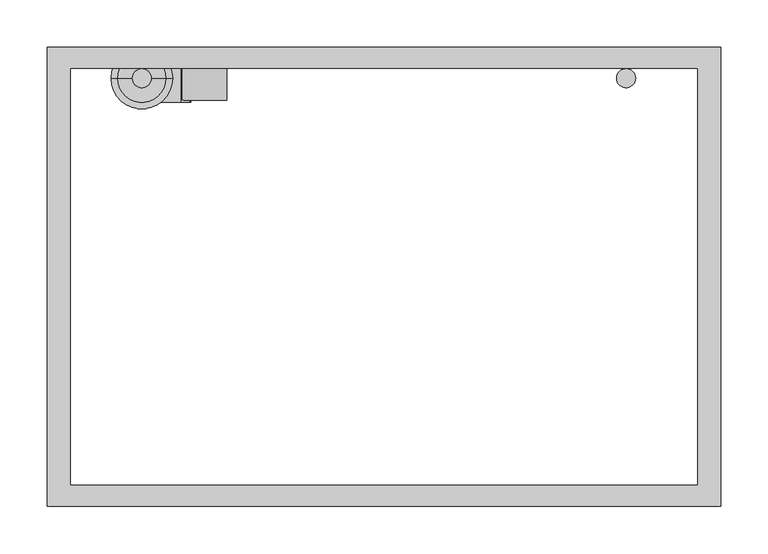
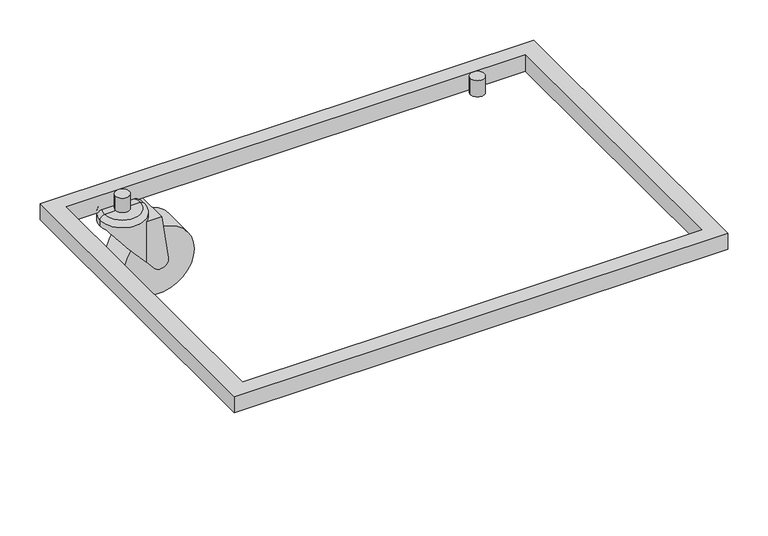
"""IFC4 building model written with IfcOpenShell, lengths in millimetres: furniture geometry, BK Library - Smaaland - Book Trolley : BK Library - Smaaland - Book Trolley."""

from ifc_helpers import new_model, si_unit, point, frame, frame_2d, origin, place, context, project, spatial, polyline, circle_curve, ellipse_curve, trimmed, segment, composite_curve, outline, extrude, source, transform, mapped, element, save
from ifc_brep_helpers import plane_surface, cylinder_surface, revolved_surface, advanced_brep


def furniture_c6fde251(model_context):
    return source(origin(), model_context, "Body", "SolidModel", [
        extrude(outline(composite_curve([segment(trimmed(circle_curve(frame_2d((49.3999998, -216.0856892)), 50.0), [point((49.3999998, -266.0856892))], [point((49.3999998, -166.0856892))], False, "CARTESIAN"), True, "CONTINUOUS"), segment(trimmed(circle_curve(frame_2d((49.3999998, -216.0856892)), 50.0), [point((49.3999998, -166.0856892))], [point((49.3999998, -266.0856892))], False, "CARTESIAN"), True, "CONTINUOUS")], self_intersect=False)), frame((0.0, 186.7499229, 0.0), z_axis=(0.0, 1.0, 0.0), x_axis=(0.0, 0.0, 1.0)), (0.0, 0.0, 1.0), 46.2857127),
        extrude(outline(composite_curve([segment(trimmed(circle_curve(frame_2d((255.996947, 209.9854769)), 10.0), [point((245.996947, 209.9854769))], [point((265.996947, 209.9854769))], False, "CARTESIAN"), True, "CONTINUOUS"), segment(trimmed(circle_curve(frame_2d((255.996947, 209.9854769)), 10.0), [point((265.996947, 209.9854769))], [point((245.996947, 209.9854769))], False, "CARTESIAN"), True, "CONTINUOUS")], self_intersect=False)), frame((0.0, 0.0, 126.1999998), z_axis=(0.0, 0.0, 1.0), x_axis=(1.0, 0.0, 0.0)), (0.0, 0.0, 1.0), 24.8998986),
        advanced_brep(
        [(-225.0193298, 184.391429, 41.8401668), (-204.6504597, 184.391429, 51.0748876), (-214.1674795, 184.391429, 116.3900038), (-235.9880793, 184.391429, 116.3900038), (-235.9880793, 184.391429, 54.6890773), (-214.1674795, 235.3330703, 116.3900038), (-204.6504597, 235.3330703, 51.0748876), (-225.0193298, 235.3330703, 41.8401668), (-235.8706963, 235.3330703, 54.5515736), (-235.8706963, 235.3330703, 116.3900038), (-223.6101389, 209.9087309, 116.3900038), (-225.0193298, 186.7499229, 41.8401668), (-285.8899558, 196.935471, 113.1446696), (-285.8899558, 222.8819908, 113.1446696), (-225.0193298, 232.9745764, 41.8401668), (-233.218088, 232.9745764, 51.4442799), (-227.2821321, 224.9130887, 44.4908375), (-227.2821321, 209.9087309, 44.4908375), (-227.2821321, 194.9043731, 44.4908375), (-233.312175, 186.7499229, 51.5544945), (-204.6504597, 186.7499229, 51.0748876), (-204.6504597, 232.9745764, 51.0748876), (-213.8046628, 186.7499229, 113.8999998), (-213.8046628, 232.9745764, 113.8999998), (-233.312175, 186.7499229, 113.8999998), (-223.6101389, 209.9087309, 113.8999998), (-233.218088, 232.9745764, 113.8999998), (-288.5923637, 209.9087309, 121.6226045), (-223.6101389, 209.9087309, 121.6226045), (-288.5923637, 209.9087309, 113.1446696), (-223.6101389, 209.9087309, 44.4908375), (-230.6101389, 209.9087309, 128.6226045), (-281.5923637, 209.9087309, 128.6226045), (-256.1012513, 209.9087309, 128.6226045)],
        [
            (0, 1, circle_curve(frame((-216.167464, 184.391429, 49.3967529), z_axis=(0.0, -1.0, 0.0), x_axis=(1.0, 0.0, 0.0)), 11.6386221)),
            (1, 2),
            (2, 3),
            (3, 4),
            (4, 0),
            (5, 6),
            (6, 7, circle_curve(frame((-216.167464, 235.3330703, 49.3967529), z_axis=(0.0, 1.0, 0.0), x_axis=(1.0, 0.0, 0.0)), 11.6386221)),
            (7, 8),
            (8, 9),
            (9, 5),
            (2, 5),
            (9, 10, circle_curve(frame((-256.1012513, 209.9087309, 116.3900038), z_axis=(0.0, 0.0, -1.0), x_axis=(-1.0, 0.0, 0.0)), 32.4911124)),
            (10, 3, circle_curve(frame((-256.1012513, 209.9087309, 116.3900038), z_axis=(0.0, 0.0, -1.0), x_axis=(-1.0, 0.0, 0.0)), 32.4911124)),
            (11, 0),
            (4, 12, ellipse_curve(frame((-256.1012513, 209.9087309, 78.2498623), z_axis=(-0.7605596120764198, 0.0, -0.6492681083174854), x_axis=(0.6492681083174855, 0.0, -0.7605596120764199)), 50.0426742, 32.4911124)),
            (12, 13),
            (13, 8, ellipse_curve(frame((-256.1012513, 209.9087309, 78.2498623), z_axis=(-0.7605596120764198, 0.0, -0.6492681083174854), x_axis=(0.6492681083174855, 0.0, -0.7605596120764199)), 50.0426742, 32.4911124)),
            (7, 14),
            (14, 15),
            (15, 16, ellipse_curve(frame((-256.1012513, 209.9087309, 78.2498623), z_axis=(-0.7605596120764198, 0.0, -0.6492681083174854), x_axis=(0.6492681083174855, 0.0, -0.7605596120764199)), 50.0426742, 32.4911124)),
            (16, 17),
            (17, 18),
            (18, 19, ellipse_curve(frame((-256.1012513, 209.9087309, 78.2498623), z_axis=(-0.7605596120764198, 0.0, -0.6492681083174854), x_axis=(0.6492681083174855, 0.0, -0.7605596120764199)), 50.0426742, 32.4911124)),
            (19, 11),
            (11, 20, circle_curve(frame((-216.167464, 186.7499229, 49.3967529), z_axis=(0.0, -1.0, 0.0), x_axis=(1.0, 0.0, 0.0)), 11.6386221)),
            (20, 1),
            (6, 21),
            (21, 14, circle_curve(frame((-216.167464, 232.9745764, 49.3967529), z_axis=(0.0, 1.0, 0.0), x_axis=(1.0, 0.0, 0.0)), 11.6386221)),
            (20, 22),
            (22, 23),
            (23, 21),
            (19, 24),
            (24, 22),
            (24, 25, circle_curve(frame((-256.1012513, 209.9087309, 113.8999998), z_axis=(0.0, 0.0, 1.0), x_axis=(-1.0, 0.0, 0.0)), 32.4911124)),
            (25, 26, circle_curve(frame((-256.1012513, 209.9087309, 113.8999998), z_axis=(0.0, 0.0, 1.0), x_axis=(-1.0, 0.0, 0.0)), 32.4911124)),
            (26, 23),
            (26, 15),
            (27, 28, circle_curve(frame((-256.1012513, 209.9087309, 121.6226045), z_axis=(0.0, 0.0, -1.0), x_axis=(-1.0, 0.0, 0.0)), 32.4911124)),
            (28, 10),
            (13, 29, circle_curve(frame((-256.1012513, 209.9087309, 113.1446696), z_axis=(0.0, 0.0, 1.0), x_axis=(-1.0, 0.0, 0.0)), 32.4911124)),
            (29, 27),
            (30, 16, circle_curve(frame((-256.1012513, 209.9087309, 44.4908375), z_axis=(0.0, 0.0, 1.0), x_axis=(-1.0, 0.0, 0.0)), 32.4911124)),
            (25, 30),
            (28, 27, circle_curve(frame((-256.1012513, 209.9087309, 121.6226045), z_axis=(0.0, 0.0, -1.0), x_axis=(-1.0, 0.0, 0.0)), 32.4911124)),
            (29, 12, circle_curve(frame((-256.1012513, 209.9087309, 113.1446696), z_axis=(0.0, 0.0, 1.0), x_axis=(-1.0, 0.0, 0.0)), 32.4911124)),
            (18, 30, circle_curve(frame((-256.1012513, 209.9087309, 44.4908375), z_axis=(0.0, 0.0, 1.0), x_axis=(-1.0, 0.0, 0.0)), 32.4911124)),
            (30, 17),
            (31, 32, circle_curve(frame((-256.1012513, 209.9087309, 128.6226045), z_axis=(0.0, 0.0, 1.0), x_axis=(-1.0, 0.0, 0.0)), 25.4911124)),
            (32, 33),
            (33, 31),
            (32, 31, circle_curve(frame((-256.1012513, 209.9087309, 128.6226045), z_axis=(0.0, 0.0, 1.0), x_axis=(-1.0, 0.0, 0.0)), 25.4911124)),
            (27, 32, circle_curve(frame((-281.5923637, 209.9087309, 121.6226045), z_axis=(0.0, 1.0, 0.0), x_axis=(1.0, 0.0, 0.0)), 7.0)),
            (31, 28, circle_curve(frame((-230.6101389, 209.9087309, 121.6226045), z_axis=(0.0, 1.0, 0.0), x_axis=(-1.0, 0.0, 0.0)), 7.0)),
        ],
        [
            plane_surface(frame((-214.1674795, 184.391429, 116.3900038), z_axis=(0.0, -1.0, 0.0), x_axis=(-1.0, 0.0, 0.0))),
            plane_surface(frame((-214.1674795, 235.3330703, 116.3900038), z_axis=(0.0, 1.0, 0.0), x_axis=(1.0, 0.0, 0.0))),
            plane_surface(frame((-214.1674795, 184.391429, 116.3900038), z_axis=(0.0, 0.0, 1.0), x_axis=(0.0, 1.0, 0.0))),
            plane_surface(frame((-259.1674795, 184.391429, 81.8416749), z_axis=(-0.7605596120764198, 0.0, -0.6492681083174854), x_axis=(0.0, 1.0, 0.0))),
            cylinder_surface(frame((-216.167464, 235.3330703, 49.3967529), z_axis=(0.0, -1.0, 0.0), x_axis=(1.0, 0.0, 0.0)), 11.6386221),
            plane_surface(frame((-204.6504597, 184.391429, 51.0748876), z_axis=(0.9895505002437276, 0.0, 0.14418671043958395), x_axis=(0.0, 1.0, 0.0))),
            plane_surface(frame((-190.5731728, 186.7499229, 113.8999998), z_axis=(0.0, 1.0, 0.0), x_axis=(-1.0, 0.0, 0.0))),
            plane_surface(frame((-190.5731728, 232.9745764, 113.8999998), z_axis=(0.0, 0.0, -1.0), x_axis=(-1.0, 0.0, 0.0))),
            plane_surface(frame((-190.5731728, 232.9745764, 11.6999998), z_axis=(0.0, -1.0, 0.0), x_axis=(-1.0, 0.0, 0.0))),
            cylinder_surface(frame((-256.1012513, 209.9087309, 133.8335618), z_axis=(0.0, 0.0, -1.0), x_axis=(-1.0, 0.0, 0.0)), 32.4911124),
            plane_surface(frame((-256.1012513, 209.9087309, 44.4908375), z_axis=(0.0, 0.0, -1.0), x_axis=(-1.0, 0.0, 0.0))),
            plane_surface(frame((-256.1012513, 209.9087309, 128.6226045), z_axis=(0.0, 0.0, 1.0), x_axis=(-1.0, 0.0, 0.0))),
            revolved_surface(trimmed(ellipse_curve(frame((-281.5923637, 209.9087309, 121.6226045), z_axis=(0.0, -1.0, 0.0), x_axis=(1.0, 0.0, 0.0)), 7.0, 7.0), [point((-281.5923637, 209.9087309, 128.6226045))], [point((-288.5923637, 209.9087309, 121.6226045))], True, "CARTESIAN"), (-256.1012513, 209.9087309, 133.8335618), (0.0, 0.0, -1.0)),
            plane_surface(frame((-285.8899558, 127.4064873, 113.1446696), z_axis=(0.0, 0.0, -1.0), x_axis=(0.0, 1.0, 0.0))),
        ],
        [
            (0, [[1, 2, 3, 4, 5]]),
            (1, [[6, 7, 8, 9, 10]]),
            (2, [[11, -10, 12, 13, -3]]),
            (3, [[14, -5, 15, 16, 17, -8, 18, 19, 20, 21, 22, 23, 24]]),
            (4, [[-1, -14, 25, 26]]),
            (4, [[-7, 27, 28, -18]]),
            (5, [[-2, -26, 29, 30, 31, -27, -6, -11]]),
            (6, [[-25, -24, 32, 33, -29]]),
            (7, [[-30, -33, 34, 35, 36]]),
            (8, [[-28, -31, -36, 37, -19]]),
            (9, [[38, 39, -12, -9, -17, 40, 41]]),
            (9, [[42, -20, -37, -35, 43]]),
            (9, [[44, -41, 45, -15, -4, -13, -39]]),
            (9, [[46, -43, -34, -32, -23]]),
            (10, [[-42, 47, -21]]),
            (10, [[-47, -46, -22]]),
            (11, [[48, 49, 50]]),
            (11, [[-49, 51, -50]]),
            (12, [[-38, 52, -48, 53]]),
            (12, [[-44, -53, -51, -52]]),
            (13, [[-16, -45, -40]]),
        ],
    ),
        extrude(outline(composite_curve([segment(trimmed(circle_curve(frame_2d((-256.1012513, 209.8778131)), 10.0), [point((-266.1012513, 209.8778131))], [point((-246.1012513, 209.8778131))], False, "CARTESIAN"), True, "CONTINUOUS"), segment(trimmed(circle_curve(frame_2d((-256.1012513, 209.8778131)), 10.0), [point((-246.1012513, 209.8778131))], [point((-266.1012513, 209.8778131))], False, "CARTESIAN"), True, "CONTINUOUS")], self_intersect=False)), frame((0.0, 0.0, 126.1999998), z_axis=(0.0, 0.0, 1.0), x_axis=(1.0, 0.0, 0.0)), (0.0, 0.0, 1.0), 24.8998986),
        extrude(outline(polyline([(356.0, 242.6394403), (356.0, -242.7476624), (-356.0, -242.7476624), (-356.0, 242.6394403), (356.0, 242.6394403)]), holes=[polyline([(330.9977978, 220.0010175), (-331.0022022, 220.0010175), (-331.0022022, -219.9989825), (330.9977978, -219.9989825), (330.9977978, 220.0010175)])]), frame((0.0, 0.0, 126.2197818), z_axis=(0.0, 0.0, 1.0), x_axis=(1.0, 0.0, 0.0)), (0.0, 0.0, 1.0), 24.8801166),
    ])


if __name__ == "__main__":
    model = new_model("IFC4")
    model_context = context("Model", 3, world=origin())
    ifc_project = project(units=[si_unit("LENGTHUNIT", "METRE", prefix="MILLI")], contexts=[model_context])
    site = spatial("IfcSite", under=ifc_project)
    building = spatial("IfcBuilding", under=site)
    placement = place(None, origin())
    furniture_shape = furniture_c6fde251(model_context)
    element("IfcFurniture", 1, ObjectType="BK Library - Smaaland - Book Trolley : BK Library - Smaaland - Book Trolley", at=placement, inside=building, context=model_context, shape_type="MappedRepresentation", body=[
        mapped(furniture_shape, transform((0.0, 0.0, 0.0), x_axis=(1.0, 0.0, 0.0), y_axis=(0.0, 1.0, 0.0), z_axis=(0.0, 0.0, 1.0))),
    ])
    save(model, "model.ifc")
